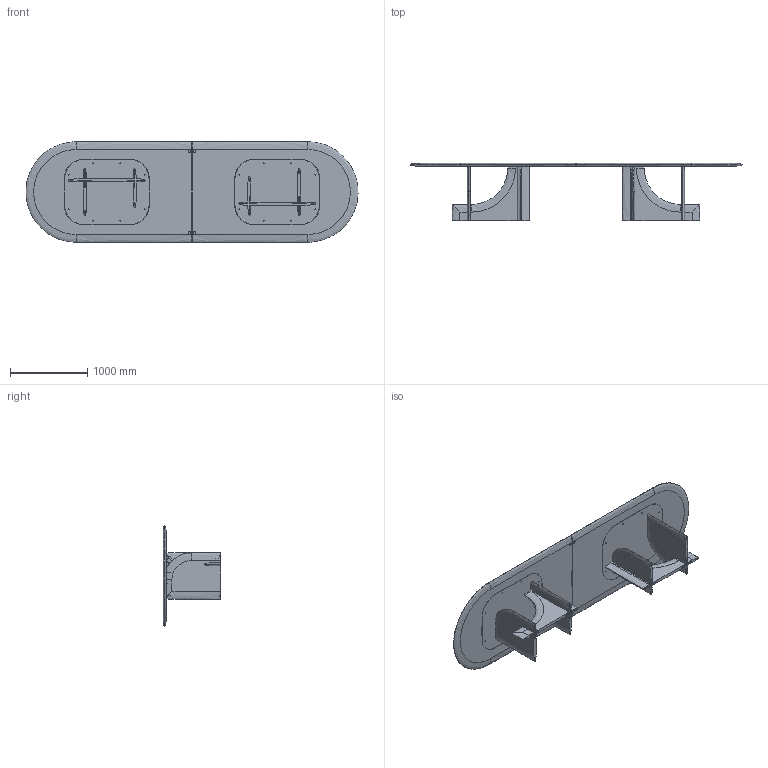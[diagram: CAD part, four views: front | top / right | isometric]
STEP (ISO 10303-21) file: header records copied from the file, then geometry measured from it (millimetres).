
FILE_DESCRIPTION (( 'STEP AP214' ), '1' );
FILE_NAME ('SELCE-T_4303.STEP', '2025-05-29T10:32:46', ( '' ), ( '' ), 'SwSTEP 2.0', 'SolidWorks 2023', '' );
FILE_SCHEMA (( 'AUTOMOTIVE_DESIGN' ));
Length unit declared in the file: millimetre
Products named in the file (7): CROCE FERRO; GAMBE e PIASTRA_PIASTRA A; GAMBE e PIASTRA_GAMBA A; SELCE-T_4303; TOP_MODULARE_MODULARE 4300 x 1300; PIATTO_METALLO_GIUNZIONE_TOP_MODULARE; SCIVOLO_IPEA_20PTPD007N
Assembly tree (25 placements, depth 2):
  SELCE-T_4303
    TOP_MODULARE_MODULARE 4300 x 1300  x2
    GAMBE e PIASTRA_GAMBA A  x2
    GAMBE e PIASTRA_PIASTRA A  x2
    CROCE FERRO  x6
    SCIVOLO_IPEA_20PTPD007N  x12
    PIATTO_METALLO_GIUNZIONE_TOP_MODULARE
Bounding box: 4301.34 x 749 x 1300 mm (x, y, z)
Volume: 279161892.5 mm3; surface area: 19335088.5 mm2
Topology: 33 solids, 33 shells, 1278 faces, 3288 edges, 2032 vertices
Faces by surface type: cylinder 484, plane 414, cone 240, bspline 140
Entity records: 19216 total; most frequent: CARTESIAN_POINT 6767, ORIENTED_EDGE 2506, DIRECTION 2499, EDGE_CURVE 1253, AXIS2_PLACEMENT_3D 913, VERTEX_POINT 806, VECTOR 673, LINE 673
